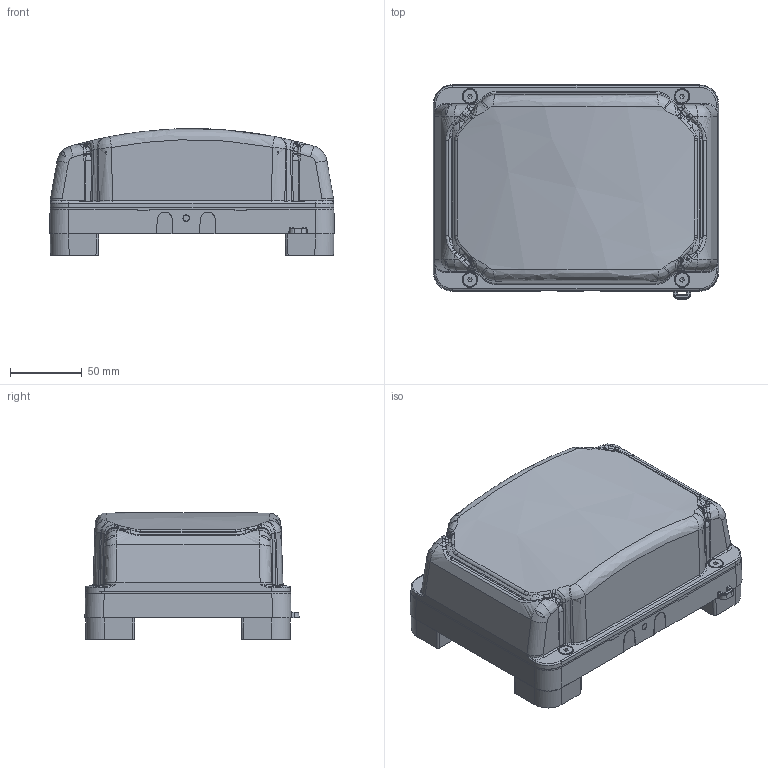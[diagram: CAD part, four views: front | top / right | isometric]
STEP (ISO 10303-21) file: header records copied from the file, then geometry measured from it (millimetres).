
FILE_DESCRIPTION (( 'STEP AP214' ), '1' );
FILE_NAME ('ÀÒÏÍ.425231.007-05 ÈÏÄË-Ñ-I èñï.5.STEP', '2026-06-10T07:15:01', ( '' ), ( '' ), 'SwSTEP 2.0', 'SolidWorks 2023', '' );
FILE_SCHEMA (( 'AUTOMOTIVE_DESIGN' ));
Length unit declared in the file: millimetre
Products named in the file (1): АТПН.425231.007-05 ИПДЛ-С-I исп.5
Bounding box: 198.92 x 149.46 x 88.47 mm (x, y, z)
Volume: 1788397.8 mm3; surface area: 103548 mm2
Topology: 1 solids, 1 shells, 543 faces, 1412 edges, 881 vertices
Faces by surface type: bspline 409, plane 134
Entity records: 31501 total; most frequent: CARTESIAN_POINT 23117, ORIENTED_EDGE 2766, EDGE_CURVE 1383, B_SPLINE_CURVE_WITH_KNOTS 1102, VERTEX_POINT 869, EDGE_LOOP 572, FACE_OUTER_BOUND 552, ADVANCED_FACE 543
